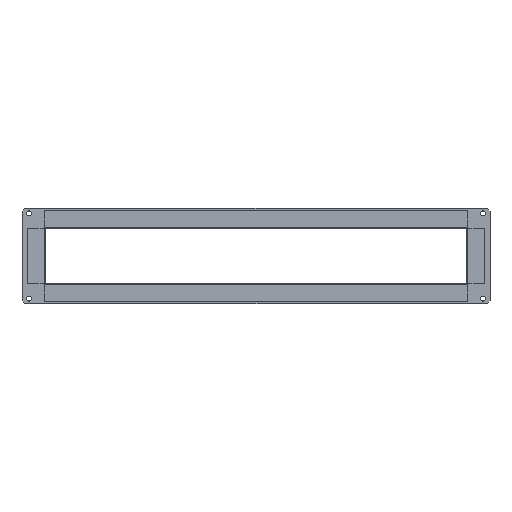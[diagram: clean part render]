
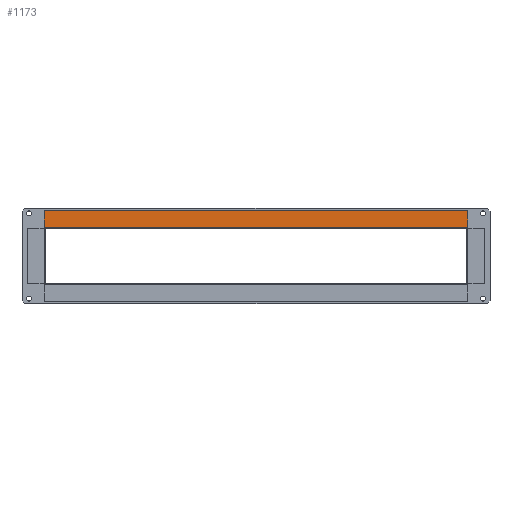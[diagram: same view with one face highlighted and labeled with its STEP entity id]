
A CAD part, top view. The second image highlights one B-rep face of the part: STEP entity #1173.
In plain terms, the highlighted planar face has unit normal (0, 0, 1) as drawn and (0, 0, -1) by its records, which use the part's own axes.
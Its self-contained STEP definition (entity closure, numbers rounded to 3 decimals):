
#415 = DIRECTION ( 'NONE',  ( -1., 0., 0. ) ) ;
#851 = VERTEX_POINT ( 'NONE', #5047 ) ;
#930 = VECTOR ( 'NONE', #5679, 1000. ) ;
#1173 = ADVANCED_FACE ( 'NONE', ( #1529 ), #2872, .T. ) ;
#1208 = EDGE_CURVE ( 'NONE', #4834, #6392, #1236, .T. ) ;
#1236 = LINE ( 'NONE', #5928, #6368 ) ;
#1529 = FACE_OUTER_BOUND ( 'NONE', #6104, .T. ) ;
#1729 = VERTEX_POINT ( 'NONE', #3177 ) ;
#1791 = LINE ( 'NONE', #6142, #2930 ) ;
#2097 = DIRECTION ( 'NONE',  ( 0., -1., 0. ) ) ;
#2129 = EDGE_CURVE ( 'NONE', #851, #6392, #1791, .T. ) ;
#2232 = DIRECTION ( 'NONE',  ( 0., 0., -1. ) ) ;
#2336 = EDGE_CURVE ( 'NONE', #1729, #851, #3492, .T. ) ;
#2872 = PLANE ( 'NONE',  #4336 ) ;
#2930 = VECTOR ( 'NONE', #6095, 1000. ) ;
#3177 = CARTESIAN_POINT ( 'NONE',  ( 300.8, 25., 0. ) ) ;
#3403 = CARTESIAN_POINT ( 'NONE',  ( 300.8, 0., 0. ) ) ;
#3492 = LINE ( 'NONE', #5595, #930 ) ;
#3497 = ORIENTED_EDGE ( 'NONE', *, *, #2129, .F. ) ;
#3657 = ORIENTED_EDGE ( 'NONE', *, *, #4343, .T. ) ;
#3744 = LINE ( 'NONE', #6153, #4929 ) ;
#4272 = ORIENTED_EDGE ( 'NONE', *, *, #1208, .T. ) ;
#4336 = AXIS2_PLACEMENT_3D ( 'NONE', #3403, #2232, #415 ) ;
#4343 = EDGE_CURVE ( 'NONE', #1729, #4834, #3744, .T. ) ;
#4834 = VERTEX_POINT ( 'NONE', #4984 ) ;
#4929 = VECTOR ( 'NONE', #2097, 1000. ) ;
#4984 = CARTESIAN_POINT ( 'NONE',  ( 300.8, 1.8, 0. ) ) ;
#5047 = CARTESIAN_POINT ( 'NONE',  ( -300.8, 25., 0. ) ) ;
#5152 = ORIENTED_EDGE ( 'NONE', *, *, #2336, .F. ) ;
#5595 = CARTESIAN_POINT ( 'NONE',  ( 300.8, 25., 0. ) ) ;
#5679 = DIRECTION ( 'NONE',  ( -1., 0., 0. ) ) ;
#5865 = DIRECTION ( 'NONE',  ( -1., 0., 0. ) ) ;
#5928 = CARTESIAN_POINT ( 'NONE',  ( 300.8, 1.8, 0. ) ) ;
#6095 = DIRECTION ( 'NONE',  ( 0., -1., 0. ) ) ;
#6104 = EDGE_LOOP ( 'NONE', ( #3497, #5152, #3657, #4272 ) ) ;
#6142 = CARTESIAN_POINT ( 'NONE',  ( -300.8, 0., 0. ) ) ;
#6153 = CARTESIAN_POINT ( 'NONE',  ( 300.8, 0., 0. ) ) ;
#6368 = VECTOR ( 'NONE', #5865, 1000. ) ;
#6392 = VERTEX_POINT ( 'NONE', #6405 ) ;
#6405 = CARTESIAN_POINT ( 'NONE',  ( -300.8, 1.8, 0. ) ) ;
